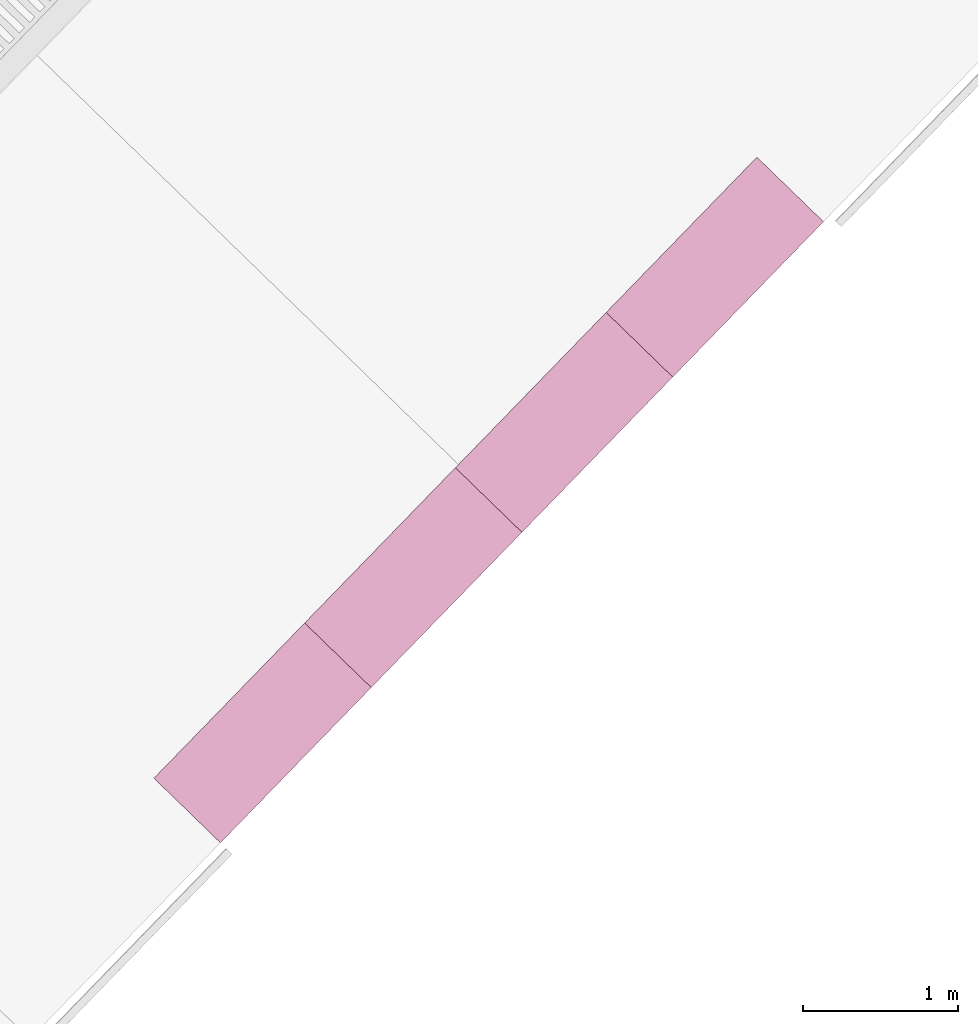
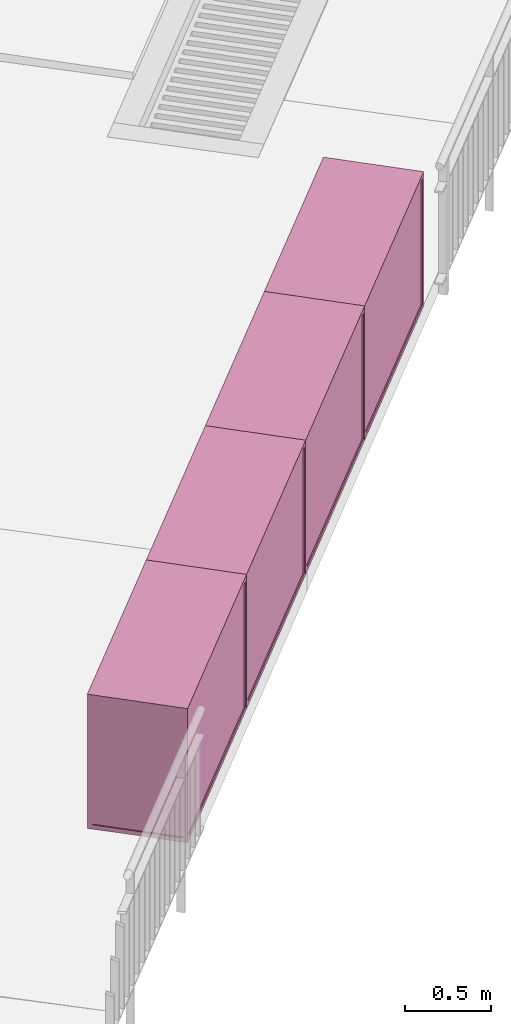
# One storey, part 32 of 37: 4 furnishings.
"""IFC2X3 building model written with IfcOpenShell, lengths in centimetres."""

from ifc_helpers import new_model, entity, si_unit, converted_unit, derived_unit, direction, frame, origin, place, context, subcontext, project, spatial, faceted_brep, source, transform, mapped, material, material_list, type_object, type_shapes, element, save


model = new_model("IFC2X3")

# Units and contexts
model_context = context("Model", 3, precision=0.001, world=origin(), true_north=direction((0.717475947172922, 0.696583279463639)))
body_context = subcontext(model_context, "Body", "Model", "MODEL_VIEW")
ifc_project = project(units=[si_unit("LENGTHUNIT", "METRE", prefix="CENTI"), si_unit("AREAUNIT", "SQUARE_METRE"), si_unit("VOLUMEUNIT", "CUBIC_METRE"), converted_unit("PLANEANGLEUNIT", "DEGREE", entity("IfcRatioMeasure", 0.0174532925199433), si_unit("PLANEANGLEUNIT", "RADIAN"), dimensions=[0, 0, 0, 0, 0, 0, 0]), si_unit("MASSUNIT", "GRAM", prefix="KILO"), derived_unit("MASSDENSITYUNIT", [(si_unit("MASSUNIT", "GRAM", prefix="KILO"), 1), (si_unit("LENGTHUNIT", "METRE"), -3)]), si_unit("TIMEUNIT", "SECOND"), si_unit("FREQUENCYUNIT", "HERTZ"), si_unit("THERMODYNAMICTEMPERATUREUNIT", "DEGREE_CELSIUS"), derived_unit("THERMALTRANSMITTANCEUNIT", [(si_unit("MASSUNIT", "GRAM", prefix="KILO"), 1), (si_unit("THERMODYNAMICTEMPERATUREUNIT", "KELVIN"), -1), (si_unit("TIMEUNIT", "SECOND"), -3)]), derived_unit("VOLUMETRICFLOWRATEUNIT", [(si_unit("LENGTHUNIT", "METRE"), 3), (si_unit("TIMEUNIT", "SECOND"), -1)]), si_unit("ELECTRICCURRENTUNIT", "AMPERE"), si_unit("ELECTRICVOLTAGEUNIT", "VOLT"), si_unit("POWERUNIT", "WATT"), si_unit("FORCEUNIT", "NEWTON", prefix="KILO"), si_unit("ILLUMINANCEUNIT", "LUX"), si_unit("LUMINOUSFLUXUNIT", "LUMEN"), si_unit("LUMINOUSINTENSITYUNIT", "CANDELA"), derived_unit("USERDEFINED", [(si_unit("MASSUNIT", "GRAM", prefix="KILO"), -1), (si_unit("LENGTHUNIT", "METRE"), -2), (si_unit("TIMEUNIT", "SECOND"), 3), (si_unit("LUMINOUSFLUXUNIT", "LUMEN"), 1)]), derived_unit("LINEARVELOCITYUNIT", [(si_unit("LENGTHUNIT", "METRE"), 1), (si_unit("TIMEUNIT", "SECOND"), -1)]), si_unit("PRESSUREUNIT", "PASCAL"), derived_unit("USERDEFINED", [(si_unit("LENGTHUNIT", "METRE"), -2), (si_unit("MASSUNIT", "GRAM", prefix="KILO"), 1), (si_unit("TIMEUNIT", "SECOND"), -2)])], contexts=[model_context])

# Site, building, storey
site_placement = place(None, frame((0.0, 0.0, 0.0), z_axis=(0.0, 0.0, 1.0), x_axis=(0.696583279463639, 0.717475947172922, 0.0)))
site = spatial("IfcSite", under=ifc_project, at=site_placement, Name="Surface", CompositionType="ELEMENT")
building_placement = place(site_placement, origin())
building = spatial("IfcBuilding", under=site, at=building_placement, CompositionType="ELEMENT")
storey_placement = place(building_placement, origin())
storey = spatial("IfcBuildingStorey", under=building, at=storey_placement, Name="Nivel 0.00", CompositionType="ELEMENT", Elevation=0.0)

# Furnishings
ifc_material_1 = material(Name="REJA_MALLA")
ifc_material_2 = material(Name="Aluminum")
ifc_material_list_1 = material_list([ifc_material_1, ifc_material_2])
ifc_material_list_2 = material_list([ifc_material_1, ifc_material_2])
furniture_type = type_object("IfcFurnitureType", Name="ARQ_MODULO_JAULA", AssemblyPlace="NOTDEFINED", material=ifc_material_list_2)
shared_shape = source(origin(), body_context, "Body", "Brep", [
    faceted_brep([(73.7200326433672, -3.0, 92.0), (72.2200326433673, -3.0, 92.0), (72.2200326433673, -57.0, 92.0), (73.7200326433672, -57.0, 92.0), (73.7200326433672, -3.0, 3.0), (72.2200326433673, -3.0, 3.0), (72.2200326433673, -57.0, 3.0), (73.7200326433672, -57.0, 3.0)], [[[0, 1, 2, 3]], [[1, 0, 4, 5]], [[2, 1, 5, 6]], [[3, 2, 6, 7]], [[0, 3, 7, 4]], [[4, 7, 6, 5]]]),
    faceted_brep([(-63.2799673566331, -3.0, 3.0), (-63.2799673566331, -57.0, 3.0), (-64.7799673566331, -57.0, 3.0), (-64.7799673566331, -3.0, 3.0), (-64.7799673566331, -3.0, 92.0), (-63.2799673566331, -3.0, 92.0), (-64.7799673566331, -57.0, 92.0), (-63.2799673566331, -57.0, 92.0)], [[[0, 1, 2, 3]], [[4, 5, 0, 3]], [[6, 4, 3, 2]], [[7, 6, 2, 1]], [[5, 7, 1, 0]], [[5, 4, 6, 7]]]),
    faceted_brep([(71.4700326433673, -57.7499999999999, 92.0), (71.4700326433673, -59.2499999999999, 92.0), (71.4700326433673, -59.2499999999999, 3.0), (71.4700326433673, -57.7499999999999, 3.0), (-62.529967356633, -57.7499999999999, 92.0), (-62.529967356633, -57.7499999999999, 3.0), (-62.529967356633, -59.2499999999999, 92.0), (-62.529967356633, -59.2499999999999, 3.0)], [[[0, 1, 2, 3]], [[4, 0, 3, 5]], [[6, 4, 5, 7]], [[1, 6, 7, 2]], [[2, 7, 5, 3]], [[1, 0, 4, 6]]]),
    faceted_brep([(71.4700326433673, -0.749999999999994, 92.0), (71.4700326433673, -2.24999999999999, 92.0), (71.4700326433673, -2.24999999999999, 3.0), (71.4700326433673, -0.749999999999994, 3.0), (-62.529967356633, -0.749999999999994, 92.0), (-62.529967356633, -0.749999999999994, 3.0), (-62.529967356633, -2.24999999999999, 92.0), (-62.529967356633, -2.24999999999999, 3.0)], [[[0, 1, 2, 3]], [[4, 0, 3, 5]], [[6, 4, 5, 7]], [[1, 6, 7, 2]], [[2, 7, 5, 3]], [[1, 0, 4, 6]]]),
    faceted_brep([(-65.529967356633, 0.0, 95.0), (-65.529967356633, -60.0, 95.0), (74.4700326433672, -60.0, 95.0), (74.4700326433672, 0.0, 95.0), (-65.529967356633, 0.0, 0.0), (74.4700326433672, 0.0, 0.0), (74.4700326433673, -60.0, 0.0), (-65.529967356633, -60.0, 0.0), (-65.529967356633, -3.0, 92.0), (-65.529967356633, -57.0, 92.0), (-65.529967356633, -57.0, 3.0), (-65.529967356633, -3.0, 3.0), (-62.529967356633, -60.0, 92.0), (71.4700326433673, -60.0, 92.0), (71.4700326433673, -60.0, 3.0), (-62.529967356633, -60.0, 3.0), (74.4700326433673, -57.0, 92.0), (74.4700326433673, -3.0, 92.0), (74.4700326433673, -3.0, 3.0), (74.4700326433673, -57.0, 3.0), (71.4700326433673, 0.0, 92.0), (-62.529967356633, 0.0, 92.0), (-62.529967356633, 0.0, 3.0), (71.4700326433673, 0.0, 3.0), (71.4700326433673, -3.0, 92.0), (71.4700326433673, -57.0, 92.0), (-62.529967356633, -57.0, 92.0), (-62.529967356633, -3.0, 92.0), (71.4700326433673, -3.0, 3.0), (-62.529967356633, -3.0, 3.0), (-62.529967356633, -57.0, 3.0), (71.4700326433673, -57.0, 3.0)], [[[0, 1, 2, 3]], [[4, 5, 6, 7]], [[1, 0, 4, 7], [8, 9, 10, 11]], [[2, 1, 7, 6], [12, 13, 14, 15]], [[3, 2, 6, 5], [16, 17, 18, 19]], [[0, 3, 5, 4], [20, 21, 22, 23]], [[24, 17, 16, 25, 13, 12, 26, 9, 8, 27, 21, 20]], [[28, 23, 22, 29, 11, 10, 30, 15, 14, 31, 19, 18]], [[21, 27, 29, 22]], [[9, 26, 30, 10]], [[13, 25, 31, 14]], [[17, 24, 28, 18]], [[24, 20, 23, 28]], [[27, 8, 11, 29]], [[26, 12, 15, 30]], [[25, 16, 19, 31]]]),
])
type_shapes(furniture_type, [shared_shape])
furnishing_1_placement = place(storey_placement, frame((-354.442343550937, -1505.307950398, 151.454344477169)))
element("IfcFurnishingElement", 1, at=furnishing_1_placement, inside=storey, type_object=furniture_type, material=ifc_material_list_1, Name="ARQ_MODULO_JAULA:ARQ_MODULO_JAULA", ObjectType="ARQ_MODULO_JAULA", context=body_context, shape_type="MappedRepresentation", body=[
    mapped(shared_shape, transform((0.0, 0.0, 0.0), scale=1.0)),
])
ifc_material_list_3 = material_list([ifc_material_1, ifc_material_2])
furnishing_2_placement = place(storey_placement, frame((-214.442343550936, -1505.307950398, 151.454344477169)))
element("IfcFurnishingElement", 2, at=furnishing_2_placement, inside=storey, type_object=furniture_type, material=ifc_material_list_3, Name="ARQ_MODULO_JAULA:ARQ_MODULO_JAULA", ObjectType="ARQ_MODULO_JAULA", context=body_context, shape_type="MappedRepresentation", body=[
    mapped(shared_shape, transform((0.0, 0.0, 0.0), scale=1.0)),
])
ifc_material_list_4 = material_list([ifc_material_1, ifc_material_2])
furnishing_3_placement = place(storey_placement, frame((-74.4423435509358, -1505.307950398, 151.454338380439)))
element("IfcFurnishingElement", 3, at=furnishing_3_placement, inside=storey, type_object=furniture_type, material=ifc_material_list_4, Name="ARQ_MODULO_JAULA:ARQ_MODULO_JAULA", ObjectType="ARQ_MODULO_JAULA", context=body_context, shape_type="MappedRepresentation", body=[
    mapped(shared_shape, transform((0.0, 0.0, 0.0), scale=1.0)),
])
ifc_material_list_5 = material_list([ifc_material_1, ifc_material_2])
furnishing_4_placement = place(storey_placement, frame((65.5576564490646, -1505.307950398, 151.454338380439)))
element("IfcFurnishingElement", 4, at=furnishing_4_placement, inside=storey, type_object=furniture_type, material=ifc_material_list_5, Name="ARQ_MODULO_JAULA:ARQ_MODULO_JAULA", ObjectType="ARQ_MODULO_JAULA", context=body_context, shape_type="MappedRepresentation", body=[
    mapped(shared_shape, transform((0.0, 0.0, 0.0), scale=1.0)),
])

save(model, "model.ifc")
